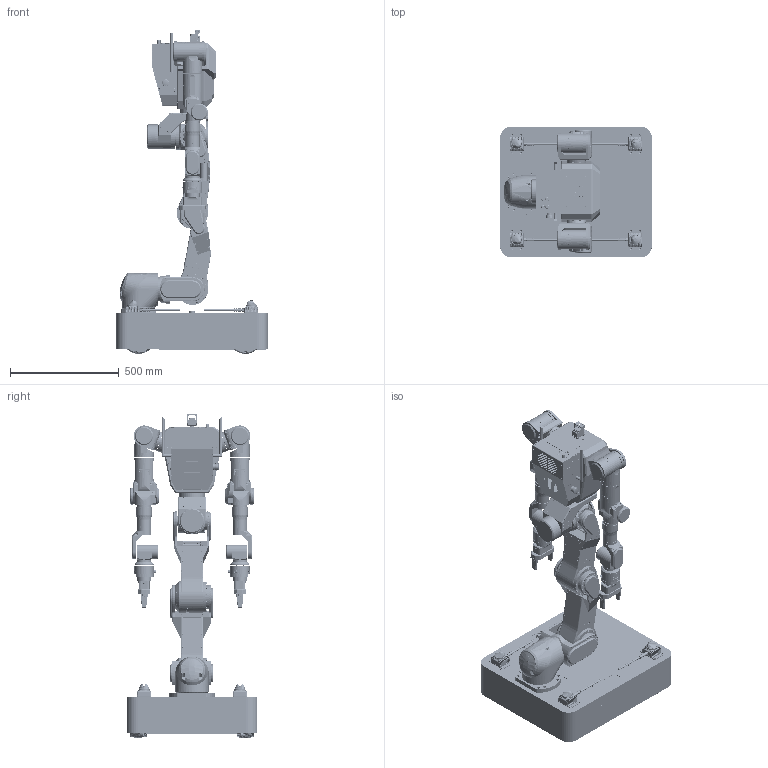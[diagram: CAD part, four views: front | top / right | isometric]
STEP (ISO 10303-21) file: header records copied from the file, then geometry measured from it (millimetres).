
FILE_DESCRIPTION(/* description */ (''),/* implementation_level */ '2;1');
FILE_NAME(/* name */ 'RB-Y1_v1.0_3D_Power Grip_MW_260107.stp',/* time_stamp */ '2026-01-08T11:22:00+09:00',/* author */ ('KiWook.H'),/* organization */ (''),/* preprocessor_version */ 'ST-DEVELOPER v20',/* originating_system */ 'Autodesk Inventor 2025',/* authorisation */ '');
FILE_SCHEMA (('AUTOMOTIVE_DESIGN { 1 0 10303 214 3 1 1 }'));
Products named in the file (22): RB-Y1_v1.0_3D_Power Grip_MW_260107; 000_Base_Macanum_v1.0; 001_AR_v1.0; 002_AP_v1.0; 003_KN_v1.0; 004_HP_v1.0; 005_HR_v1.0; 006_HY_v1.0; 007_SP_R_v1.0; 008_SR_R_v1.0; 009_SY_R_v1.0; 010_EL_R_v1.0; 011_WY1_R_v1.0; 012_WP_R_v1.0; 014_SP_L_v1.0; 015_SR_L_v1.0; 016_SY_L_v1.0; 017_EL_L_v1.0; 018_WY1_L_v1.0; 019_WP_L_v1.0; 020_TF_v1.0; 021_Grippper_Power_v1.0
Assembly tree (23 placements, depth 2):
  RB-Y1_v1.0_3D_Power Grip_MW_260107
    000_Base_Macanum_v1.0
    001_AR_v1.0
    002_AP_v1.0
    003_KN_v1.0
    004_HP_v1.0
    005_HR_v1.0
    006_HY_v1.0
    007_SP_R_v1.0
    008_SR_R_v1.0
    009_SY_R_v1.0
    010_EL_R_v1.0
    011_WY1_R_v1.0
    012_WP_R_v1.0
    014_SP_L_v1.0
    015_SR_L_v1.0
    016_SY_L_v1.0
    017_EL_L_v1.0
    018_WY1_L_v1.0
    019_WP_L_v1.0
    020_TF_v1.0  x2
    021_Grippper_Power_v1.0  x2
Bounding box: 695 x 600 x 1486.2 mm (x, y, z)
Volume: 92532650.2 mm3; surface area: 7035642.4 mm2
Topology: 1677 solids, 2258 shells, 30326 faces, 76611 edges, 49113 vertices
Faces by surface type: plane 13562, cylinder 8894, cone 2521, torus 2137, sphere 1653, bspline 1559
Full cylindrical faces by diameter (mm): 0.6 x48, 0.7 x16, 0.9 x48, 1 x48, 1.03 x16, 1.5 x10, 1.6 x132, 1.7 x10, 2 x16, 2.013 x4, 2.05 x16, 2.2 x4, 2.4 x16, 2.459 x57, 2.5 x51, 2.693 x12, 3 x137, 3.1 x10, 3.2 x16, 3.242 x33, 3.3 x8, 3.4 x20, 3.571 x4, 3.9 x1, 4 x133, 4.134 x68, 4.2 x24, 4.5 x70, 4.8 x6, 4.917 x16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
Entity records: 1189749 total; most frequent: CARTESIAN_POINT 477014, DIRECTION 144403, ORIENTED_EDGE 141102, EDGE_CURVE 70551, AXIS2_PLACEMENT_3D 56061, VERTEX_POINT 47662, EDGE_LOOP 32943, LINE 32281
